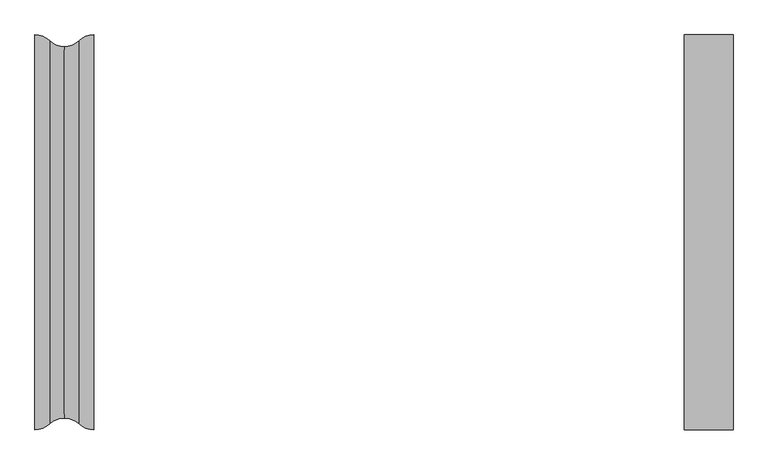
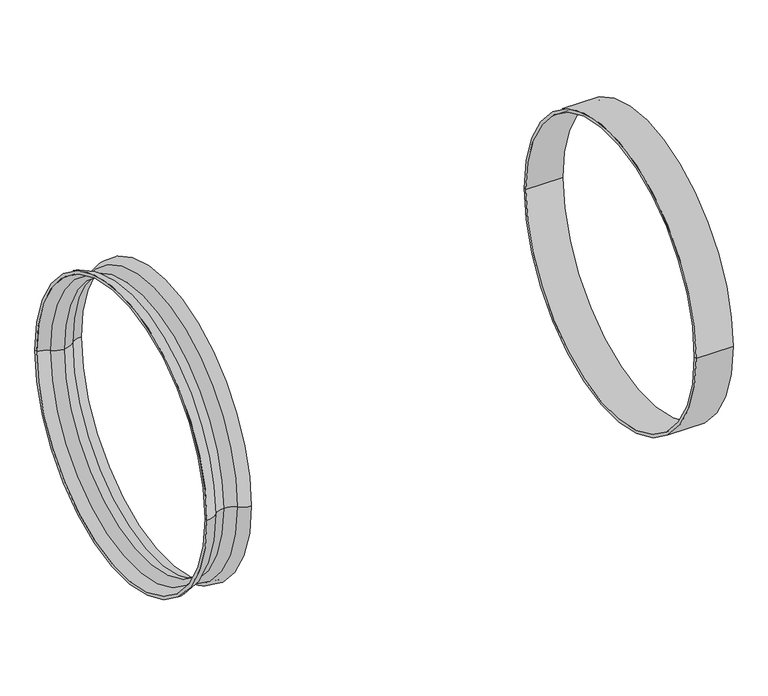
"""IFC4 building model written with IfcOpenShell, lengths in millimetres: pipe fitting geometry, Z_PIF_UN_Q-Bic_Plus_Shaft_Pipe_Wavin_(nested) : PP, RAL8012, ø600mm."""

from ifc_helpers import new_model, si_unit, point, frame, origin, place, context, project, spatial, polyline, circle_curve, ellipse_curve, trimmed, source, transform, mapped, element, save
from ifc_brep_helpers import plane_surface, cylinder_surface, revolved_surface, advanced_brep


def pipe_fitting_9b6d6bb5(model_context):
    return source(origin(), model_context, "Body", "AdvancedBrep", [
        advanced_brep(
        [(0.0, -335.0, 0.0), (0.0, 335.0, 0.0), (25.0, 325.0, 0.0), (25.0, -325.0, 0.0), (0.0, -328.0, 0.0), (0.0, 328.0, 0.0), (25.0, -318.0, 0.0), (25.0, 318.0, 0.0), (50.0, -308.0, 0.0), (50.0, 308.0, 0.0), (75.0, -318.0, 0.0), (75.0, 318.0, 0.0), (100.0, -328.0, 0.0), (100.0, 328.0, 0.0), (100.0, -335.0, 0.0), (100.0, 335.0, 0.0), (75.0, -325.0, 0.0), (75.0, 325.0, 0.0), (50.0, -315.0, 0.0), (50.0, 315.0, 0.0)],
        [
            (0, 1, circle_curve(frame((0.0, 0.0, 0.0), z_axis=(1.0, 0.0, 0.0), x_axis=(0.0, 1.0, 0.0)), 335.0)),
            (1, 2, circle_curve(frame((0.0, 298.75, 0.0), z_axis=(0.0, 0.0, -1.0), x_axis=(1.0, 0.0, 0.0)), 36.25)),
            (2, 3, circle_curve(frame((25.0, 0.0, 0.0), z_axis=(-1.0, 0.0, 0.0), x_axis=(0.0, 1.0, 0.0)), 325.0)),
            (3, 0, circle_curve(frame((0.0, -298.75, 0.0), z_axis=(0.0, 0.0, -1.0), x_axis=(1.0, 0.0, 0.0)), 36.25)),
            (1, 0, circle_curve(frame((0.0, 0.0, 0.0), z_axis=(1.0, 0.0, 0.0), x_axis=(0.0, 1.0, 0.0)), 335.0)),
            (3, 2, circle_curve(frame((25.0, 0.0, 0.0), z_axis=(-1.0, 0.0, 0.0), x_axis=(0.0, 1.0, 0.0)), 325.0)),
            (4, 5, circle_curve(frame((0.0, 0.0, 0.0), z_axis=(1.0, 0.0, 0.0), x_axis=(0.0, 1.0, 0.0)), 328.0)),
            (5, 1),
            (0, 4),
            (5, 4, circle_curve(frame((0.0, 0.0, 0.0), z_axis=(1.0, 0.0, 0.0), x_axis=(0.0, 1.0, 0.0)), 328.0)),
            (6, 7, circle_curve(frame((25.0, 0.0, 0.0), z_axis=(1.0, 0.0, 0.0), x_axis=(0.0, 1.0, 0.0)), 318.0)),
            (7, 5, circle_curve(frame((0.0, 291.75, 0.0), z_axis=(0.0, 0.0, 1.0), x_axis=(1.0, 0.0, 0.0)), 36.25)),
            (4, 6, circle_curve(frame((0.0, -291.75, 0.0), z_axis=(0.0, 0.0, 1.0), x_axis=(1.0, 0.0, 0.0)), 36.25)),
            (7, 6, circle_curve(frame((25.0, 0.0, 0.0), z_axis=(1.0, 0.0, 0.0), x_axis=(0.0, 1.0, 0.0)), 318.0)),
            (8, 9, circle_curve(frame((50.0, 0.0, 0.0), z_axis=(1.0, 0.0, 0.0), x_axis=(0.0, 1.0, 0.0)), 308.0)),
            (9, 7, circle_curve(frame((50.0, 344.25, 0.0), z_axis=(0.0, 0.0, -1.0), x_axis=(1.0, 0.0, 0.0)), 36.25)),
            (6, 8, circle_curve(frame((50.0, -344.25, 0.0), z_axis=(0.0, 0.0, -1.0), x_axis=(1.0, 0.0, 0.0)), 36.25)),
            (9, 8, circle_curve(frame((50.0, 0.0, 0.0), z_axis=(1.0, 0.0, 0.0), x_axis=(0.0, 1.0, 0.0)), 308.0)),
            (10, 11, circle_curve(frame((75.0, 0.0, 0.0), z_axis=(1.0, 0.0, 0.0), x_axis=(0.0, 1.0, 0.0)), 318.0)),
            (11, 9, circle_curve(frame((50.0, 344.25, 0.0), z_axis=(0.0, 0.0, -1.0), x_axis=(1.0, 0.0, 0.0)), 36.25)),
            (8, 10, circle_curve(frame((50.0, -344.25, 0.0), z_axis=(0.0, 0.0, -1.0), x_axis=(1.0, 0.0, 0.0)), 36.25)),
            (11, 10, circle_curve(frame((75.0, 0.0, 0.0), z_axis=(1.0, 0.0, 0.0), x_axis=(0.0, 1.0, 0.0)), 318.0)),
            (12, 13, circle_curve(frame((100.0, 0.0, 0.0), z_axis=(1.0, 0.0, 0.0), x_axis=(0.0, 1.0, 0.0)), 328.0)),
            (13, 11, circle_curve(frame((100.0, 291.75, 0.0), z_axis=(0.0, 0.0, 1.0), x_axis=(1.0, 0.0, 0.0)), 36.25)),
            (10, 12, circle_curve(frame((100.0, -291.75, 0.0), z_axis=(0.0, 0.0, 1.0), x_axis=(1.0, 0.0, 0.0)), 36.25)),
            (13, 12, circle_curve(frame((100.0, 0.0, 0.0), z_axis=(1.0, 0.0, 0.0), x_axis=(0.0, 1.0, 0.0)), 328.0)),
            (14, 15, circle_curve(frame((100.0, 0.0, 0.0), z_axis=(1.0, 0.0, 0.0), x_axis=(0.0, 1.0, 0.0)), 335.0)),
            (15, 13),
            (12, 14),
            (15, 14, circle_curve(frame((100.0, 0.0, 0.0), z_axis=(1.0, 0.0, 0.0), x_axis=(0.0, 1.0, 0.0)), 335.0)),
            (16, 17, circle_curve(frame((75.0, 0.0, 0.0), z_axis=(1.0, 0.0, 0.0), x_axis=(0.0, 1.0, 0.0)), 325.0)),
            (17, 15, circle_curve(frame((100.0, 298.75, 0.0), z_axis=(0.0, 0.0, -1.0), x_axis=(1.0, 0.0, 0.0)), 36.25)),
            (14, 16, circle_curve(frame((100.0, -298.75, 0.0), z_axis=(0.0, 0.0, -1.0), x_axis=(1.0, 0.0, 0.0)), 36.25)),
            (17, 16, circle_curve(frame((75.0, 0.0, 0.0), z_axis=(1.0, 0.0, 0.0), x_axis=(0.0, 1.0, 0.0)), 325.0)),
            (18, 19, circle_curve(frame((50.0, 0.0, 0.0), z_axis=(1.0, 0.0, 0.0), x_axis=(0.0, 1.0, 0.0)), 315.0)),
            (19, 17, circle_curve(frame((50.0, 351.25, 0.0), z_axis=(0.0, 0.0, 1.0), x_axis=(1.0, 0.0, 0.0)), 36.25)),
            (16, 18, circle_curve(frame((50.0, -351.25, 0.0), z_axis=(0.0, 0.0, 1.0), x_axis=(1.0, 0.0, 0.0)), 36.25)),
            (19, 18, circle_curve(frame((50.0, 0.0, 0.0), z_axis=(1.0, 0.0, 0.0), x_axis=(0.0, 1.0, 0.0)), 315.0)),
            (2, 19, circle_curve(frame((50.0, 351.25, 0.0), z_axis=(0.0, 0.0, 1.0), x_axis=(1.0, 0.0, 0.0)), 36.25)),
            (18, 3, circle_curve(frame((50.0, -351.25, 0.0), z_axis=(0.0, 0.0, 1.0), x_axis=(1.0, 0.0, 0.0)), 36.25)),
        ],
        [
            revolved_surface(trimmed(ellipse_curve(frame((0.0, 298.75, 0.0), z_axis=(0.0, 0.0, 1.0), x_axis=(1.0, 0.0, 0.0)), 36.25, 36.25), [point((25.0, 325.0, 0.0))], [point((0.0, 335.0, 0.0))], True, "CARTESIAN"), (-50.0, 0.0, 0.0), (-1.0, 0.0, 0.0)),
            plane_surface(frame((0.0, 0.0, 0.0), z_axis=(-1.0, 0.0, 0.0), x_axis=(0.0, 1.0, 0.0))),
            revolved_surface(trimmed(ellipse_curve(frame((0.0, 291.75, 0.0), z_axis=(0.0, 0.0, -1.0), x_axis=(1.0, 0.0, 0.0)), 36.25, 36.25), [point((0.0, 328.0, 0.0))], [point((25.0, 318.0, 0.0))], True, "CARTESIAN"), (-50.0, 0.0, 0.0), (-1.0, 0.0, 0.0)),
            revolved_surface(trimmed(ellipse_curve(frame((50.0, 344.25, 0.0), z_axis=(0.0, 0.0, 1.0), x_axis=(1.0, 0.0, 0.0)), 36.25, 36.25), [point((25.0, 318.0, 0.0))], [point((50.0, 308.0, 0.0))], True, "CARTESIAN"), (-50.0, 0.0, 0.0), (-1.0, 0.0, 0.0)),
            revolved_surface(trimmed(ellipse_curve(frame((50.0, 344.25, 0.0), z_axis=(0.0, 0.0, 1.0), x_axis=(1.0, 0.0, 0.0)), 36.25, 36.25), [point((50.0, 308.0, 0.0))], [point((75.0, 318.0, 0.0))], True, "CARTESIAN"), (-50.0, 0.0, 0.0), (-1.0, 0.0, 0.0)),
            revolved_surface(trimmed(ellipse_curve(frame((100.0, 291.75, 0.0), z_axis=(0.0, 0.0, -1.0), x_axis=(1.0, 0.0, 0.0)), 36.25, 36.25), [point((75.0, 318.0, 0.0))], [point((100.0, 328.0, 0.0))], True, "CARTESIAN"), (-50.0, 0.0, 0.0), (-1.0, 0.0, 0.0)),
            plane_surface(frame((100.0, 0.0, 0.0), z_axis=(1.0, 0.0, 0.0), x_axis=(0.0, 1.0, 0.0))),
            revolved_surface(trimmed(ellipse_curve(frame((100.0, 298.75, 0.0), z_axis=(0.0, 0.0, 1.0), x_axis=(1.0, 0.0, 0.0)), 36.25, 36.25), [point((100.0, 335.0, 0.0))], [point((75.0, 325.0, 0.0))], True, "CARTESIAN"), (-50.0, 0.0, 0.0), (-1.0, 0.0, 0.0)),
            revolved_surface(trimmed(ellipse_curve(frame((50.0, 351.25, 0.0), z_axis=(0.0, 0.0, -1.0), x_axis=(1.0, 0.0, 0.0)), 36.25, 36.25), [point((75.0, 325.0, 0.0))], [point((50.0, 315.0, 0.0))], True, "CARTESIAN"), (-50.0, 0.0, 0.0), (-1.0, 0.0, 0.0)),
            revolved_surface(trimmed(ellipse_curve(frame((50.0, 351.25, 0.0), z_axis=(0.0, 0.0, -1.0), x_axis=(1.0, 0.0, 0.0)), 36.25, 36.25), [point((50.0, 315.0, 0.0))], [point((25.0, 325.0, 0.0))], True, "CARTESIAN"), (-50.0, 0.0, 0.0), (-1.0, 0.0, 0.0)),
        ],
        [
            (0, [[1, 2, 3, 4]]),
            (0, [[5, -4, 6, -2]]),
            (1, [[7, 8, -1, 9]]),
            (1, [[10, -9, -5, -8]]),
            (2, [[11, 12, -7, 13]]),
            (2, [[14, -13, -10, -12]]),
            (3, [[15, 16, -11, 17]]),
            (3, [[18, -17, -14, -16]]),
            (4, [[19, 20, -15, 21]]),
            (4, [[22, -21, -18, -20]]),
            (5, [[23, 24, -19, 25]]),
            (5, [[26, -25, -22, -24]]),
            (6, [[27, 28, -23, 29]]),
            (6, [[30, -29, -26, -28]]),
            (7, [[31, 32, -27, 33]]),
            (7, [[34, -33, -30, -32]]),
            (8, [[35, 36, -31, 37]]),
            (8, [[38, -37, -34, -36]]),
            (9, [[-3, 39, -35, 40]]),
            (9, [[-6, -40, -38, -39]]),
        ],
    ),
        advanced_brep(
        [(1100.0, -335.0, 0.0), (1100.0, 335.0, 0.0), (1183.0, 335.0, 0.0), (1183.0, -335.0, 0.0), (1100.0, -328.0, 0.0), (1100.0, 328.0, 0.0), (1183.0, -328.0, 0.0), (1183.0, 328.0, 0.0)],
        [
            (0, 1, circle_curve(frame((1100.0, 0.0, 0.0), z_axis=(1.0, 0.0, 0.0), x_axis=(0.0, 1.0, 0.0)), 335.0)),
            (1, 2),
            (2, 3, circle_curve(frame((1183.0, 0.0, 0.0), z_axis=(-1.0, 0.0, 0.0), x_axis=(0.0, 1.0, 0.0)), 335.0)),
            (3, 0),
            (1, 0, circle_curve(frame((1100.0, 0.0, 0.0), z_axis=(1.0, 0.0, 0.0), x_axis=(0.0, 1.0, 0.0)), 335.0)),
            (3, 2, circle_curve(frame((1183.0, 0.0, 0.0), z_axis=(-1.0, 0.0, 0.0), x_axis=(0.0, 1.0, 0.0)), 335.0)),
            (4, 5, circle_curve(frame((1100.0, 0.0, 0.0), z_axis=(1.0, 0.0, 0.0), x_axis=(0.0, 1.0, 0.0)), 328.0)),
            (5, 1),
            (0, 4),
            (5, 4, circle_curve(frame((1100.0, 0.0, 0.0), z_axis=(1.0, 0.0, 0.0), x_axis=(0.0, 1.0, 0.0)), 328.0)),
            (6, 7, circle_curve(frame((1183.0, 0.0, 0.0), z_axis=(1.0, 0.0, 0.0), x_axis=(0.0, 1.0, 0.0)), 328.0)),
            (7, 5),
            (4, 6),
            (7, 6, circle_curve(frame((1183.0, 0.0, 0.0), z_axis=(1.0, 0.0, 0.0), x_axis=(0.0, 1.0, 0.0)), 328.0)),
            (2, 7),
            (6, 3),
        ],
        [
            cylinder_surface(frame((1100.0, 0.0, 0.0), z_axis=(-1.0, 0.0, 0.0), x_axis=(0.0, 1.0, 0.0)), 335.0),
            plane_surface(frame((1100.0, 0.0, 0.0), z_axis=(-1.0, 0.0, 0.0), x_axis=(0.0, 1.0, 0.0))),
            revolved_surface(polyline([(1100.0, 328.0, 0.0), (1183.0, 328.0, 0.0)]), (1100.0, 0.0, 0.0), (-1.0, 0.0, 0.0)),
            plane_surface(frame((1183.0, 0.0, 0.0), z_axis=(1.0, 0.0, 0.0), x_axis=(0.0, 1.0, 0.0))),
        ],
        [
            (0, [[1, 2, 3, 4]]),
            (0, [[5, -4, 6, -2]]),
            (1, [[7, 8, -1, 9]]),
            (1, [[10, -9, -5, -8]]),
            (2, [[11, 12, -7, 13]]),
            (2, [[14, -13, -10, -12]]),
            (3, [[-3, 15, -11, 16]]),
            (3, [[-6, -16, -14, -15]]),
        ],
    ),
    ])


if __name__ == "__main__":
    model = new_model("IFC4")
    model_context = context("Model", 3, world=origin())
    ifc_project = project(units=[si_unit("LENGTHUNIT", "METRE", prefix="MILLI")], contexts=[model_context])
    site = spatial("IfcSite", under=ifc_project)
    building = spatial("IfcBuilding", under=site)
    placement = place(None, origin())
    pipe_fitting_shape = pipe_fitting_9b6d6bb5(model_context)
    element("IfcPipeFitting", 1, ObjectType="Z_PIF_UN_Q-Bic_Plus_Shaft_Pipe_Wavin_(nested) : PP, RAL8012, ø600mm", at=placement, inside=building, context=model_context, shape_type="MappedRepresentation", body=[
        mapped(pipe_fitting_shape, transform((0.0, 0.0, 0.0), x_axis=(1.0, 0.0, 0.0), y_axis=(0.0, 1.0, 0.0), z_axis=(0.0, 0.0, 1.0))),
    ])
    save(model, "model.ifc")
